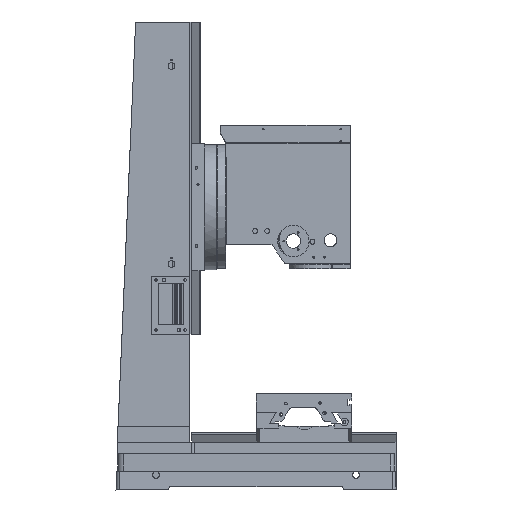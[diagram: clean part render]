
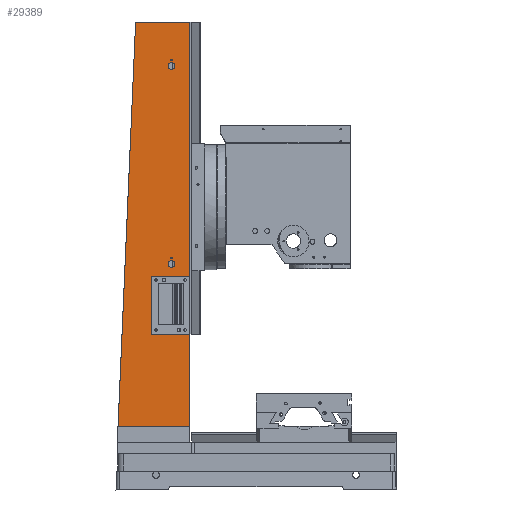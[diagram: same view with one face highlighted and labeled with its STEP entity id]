
A CAD part, left-side view. The second image highlights one B-rep face of the part: STEP entity #29389.
In plain terms, the highlighted free-form (B-spline) face has degree [3, 3] with [4, 4] control points.
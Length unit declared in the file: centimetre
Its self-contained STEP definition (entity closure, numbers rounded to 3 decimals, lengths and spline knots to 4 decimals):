
#320=B_SPLINE_CURVE_WITH_KNOTS('',3,(#50180,#50181,#50182,#50183),.UNSPECIFIED.,
.F.,.U.,(4,4),(0.,1.),.UNSPECIFIED.);
#321=B_SPLINE_CURVE_WITH_KNOTS('',3,(#50188,#50189,#50190,#50191),.UNSPECIFIED.,
.F.,.U.,(4,4),(0.,1.),.UNSPECIFIED.);
#857=B_SPLINE_SURFACE_WITH_KNOTS('',3,3,((#50161,#50162,#50163,#50164),(#50165,
#50166,#50167,#50168),(#50169,#50170,#50171,#50172),(#50173,#50174,#50175,
#50176)),.UNSPECIFIED.,.F.,.F.,.U.,(4,4),(4,4),(0.,1.),(0.,1.),.UNSPECIFIED.);
#2436=VECTOR('',#36003,1.);
#2437=VECTOR('',#36004,1.);
#2438=VECTOR('',#36005,1.);
#2439=VECTOR('',#36006,1.);
#2440=VECTOR('',#36007,1.);
#4517=LINE('',#50177,#2436);
#4518=LINE('',#50186,#2437);
#4519=LINE('',#50193,#2438);
#4520=LINE('',#50196,#2439);
#4521=LINE('',#50198,#2440);
#6348=CIRCLE('',#31320,0.21);
#6350=CIRCLE('',#31323,0.21);
#6386=CIRCLE('',#31411,0.85);
#6387=CIRCLE('',#31414,0.85);
#8411=VERTEX_POINT('',#43809);
#8413=VERTEX_POINT('',#43814);
#8613=VERTEX_POINT('',#50133);
#8615=VERTEX_POINT('',#50160);
#8616=VERTEX_POINT('',#50178);
#8617=VERTEX_POINT('',#50179);
#8618=VERTEX_POINT('',#50184);
#8619=VERTEX_POINT('',#50185);
#8620=VERTEX_POINT('',#50187);
#8621=VERTEX_POINT('',#50192);
#8622=VERTEX_POINT('',#50194);
#8623=VERTEX_POINT('',#50195);
#8624=VERTEX_POINT('',#50197);
#12099=EDGE_CURVE('',#8411,#8411,#6348,.T.);
#12101=EDGE_CURVE('',#8413,#8413,#6350,.T.);
#12369=EDGE_CURVE('',#8613,#8613,#6386,.T.);
#12372=EDGE_CURVE('',#8615,#8615,#6387,.T.);
#12374=EDGE_CURVE('',#8616,#8617,#4517,.T.);
#12375=EDGE_CURVE('',#8617,#8618,#320,.T.);
#12376=EDGE_CURVE('',#8618,#8619,#320,.T.);
#12377=EDGE_CURVE('',#8620,#8619,#4518,.T.);
#12378=EDGE_CURVE('',#8621,#8620,#321,.T.);
#12379=EDGE_CURVE('',#8622,#8621,#4519,.T.);
#12380=EDGE_CURVE('',#8622,#8623,#320,.T.);
#12381=EDGE_CURVE('',#8623,#8624,#4520,.T.);
#12382=EDGE_CURVE('',#8624,#8616,#4521,.T.);
#18491=ORIENTED_EDGE('',*,*,#12099,.T.);
#18492=ORIENTED_EDGE('',*,*,#12101,.T.);
#18493=ORIENTED_EDGE('',*,*,#12374,.T.);
#18494=ORIENTED_EDGE('',*,*,#12375,.T.);
#18495=ORIENTED_EDGE('',*,*,#12376,.T.);
#18496=ORIENTED_EDGE('',*,*,#12377,.F.);
#18497=ORIENTED_EDGE('',*,*,#12378,.F.);
#18498=ORIENTED_EDGE('',*,*,#12379,.F.);
#18499=ORIENTED_EDGE('',*,*,#12380,.T.);
#18500=ORIENTED_EDGE('',*,*,#12381,.T.);
#18501=ORIENTED_EDGE('',*,*,#12382,.T.);
#18502=ORIENTED_EDGE('',*,*,#12372,.T.);
#18503=ORIENTED_EDGE('',*,*,#12369,.T.);
#24918=EDGE_LOOP('',(#18491));
#24919=EDGE_LOOP('',(#18492));
#24920=EDGE_LOOP('',(#18493,#18494,#18495,#18496,#18497,#18498,#18499,#18500,
#18501));
#24921=EDGE_LOOP('',(#18502));
#24922=EDGE_LOOP('',(#18503));
#27227=FACE_BOUND('',#24918,.T.);
#27228=FACE_BOUND('',#24919,.T.);
#27229=FACE_BOUND('',#24920,.T.);
#27230=FACE_BOUND('',#24921,.T.);
#27231=FACE_BOUND('',#24922,.T.);
#29389=ADVANCED_FACE('',(#27227,#27228,#27229,#27230,#27231),#857,.T.);
#31320=AXIS2_PLACEMENT_3D('',#43808,#35734,#35735);
#31323=AXIS2_PLACEMENT_3D('',#43813,#35740,#35741);
#31411=AXIS2_PLACEMENT_3D('',#50132,#35995,#35996);
#31414=AXIS2_PLACEMENT_3D('',#50159,#36001,#36002);
#35734=DIRECTION('',(-1.,0.,0.));
#35735=DIRECTION('',(0.,0.,0.21));
#35740=DIRECTION('',(-1.,0.,0.));
#35741=DIRECTION('',(0.,0.,0.21));
#35995=DIRECTION('',(-1.,0.,0.));
#35996=DIRECTION('',(0.,0.,-0.85));
#36001=DIRECTION('',(-1.,0.,0.));
#36002=DIRECTION('',(0.,0.,-0.85));
#36003=DIRECTION('',(0.,1.,0.));
#36004=DIRECTION('',(0.,1.,0.));
#36005=DIRECTION('',(0.,-1.,0.));
#36006=DIRECTION('',(0.,-1.,0.));
#36007=DIRECTION('',(0.,0.,1.));
#43808=CARTESIAN_POINT('',(9.5,4.4,95.5));
#43809=CARTESIAN_POINT('',(9.5,4.4,95.71));
#43813=CARTESIAN_POINT('',(9.5,4.4,46.));
#43814=CARTESIAN_POINT('',(9.5,4.4,46.21));
#50132=CARTESIAN_POINT('',(9.5,4.4,44.5));
#50133=CARTESIAN_POINT('',(9.5,4.4,43.65));
#50159=CARTESIAN_POINT('',(9.5,4.4,94.));
#50160=CARTESIAN_POINT('',(9.5,4.4,93.15));
#50161=CARTESIAN_POINT('',(9.5,-9.,4.));
#50162=CARTESIAN_POINT('',(9.5,-7.5333,37.6667));
#50163=CARTESIAN_POINT('',(9.5,-6.0667,71.3333));
#50164=CARTESIAN_POINT('',(9.5,-4.6,105.));
#50165=CARTESIAN_POINT('',(9.5,-3.,4.));
#50166=CARTESIAN_POINT('',(9.5,-2.0222,37.6667));
#50167=CARTESIAN_POINT('',(9.5,-1.0444,71.3333));
#50168=CARTESIAN_POINT('',(9.5,-0.0667,105.));
#50169=CARTESIAN_POINT('',(9.5,3.,4.));
#50170=CARTESIAN_POINT('',(9.5,3.4889,37.6667));
#50171=CARTESIAN_POINT('',(9.5,3.9778,71.3333));
#50172=CARTESIAN_POINT('',(9.5,4.4667,105.));
#50173=CARTESIAN_POINT('',(9.5,9.,4.));
#50174=CARTESIAN_POINT('',(9.5,9.,37.6667));
#50175=CARTESIAN_POINT('',(9.5,9.,71.3333));
#50176=CARTESIAN_POINT('',(9.5,9.,105.));
#50177=CARTESIAN_POINT('',(9.5,4.2,41.5));
#50178=CARTESIAN_POINT('',(9.5,-0.6,41.5));
#50179=CARTESIAN_POINT('',(9.5,9.,41.5));
#50180=CARTESIAN_POINT('',(9.5,9.,4.));
#50181=CARTESIAN_POINT('',(9.5,9.,37.6667));
#50182=CARTESIAN_POINT('',(9.5,9.,71.3333));
#50183=CARTESIAN_POINT('',(9.5,9.,105.));
#50184=CARTESIAN_POINT('',(9.5,9.,103.5));
#50185=CARTESIAN_POINT('',(9.5,9.,105.));
#50186=CARTESIAN_POINT('',(9.5,-4.6,105.));
#50187=CARTESIAN_POINT('',(9.5,-4.6,105.));
#50188=CARTESIAN_POINT('',(9.5,-9.,4.));
#50189=CARTESIAN_POINT('',(9.5,-7.5333,37.6667));
#50190=CARTESIAN_POINT('',(9.5,-6.0667,71.3333));
#50191=CARTESIAN_POINT('',(9.5,-4.6,105.));
#50192=CARTESIAN_POINT('',(9.5,-9.,4.));
#50193=CARTESIAN_POINT('',(9.5,-9.,4.));
#50194=CARTESIAN_POINT('',(9.5,9.,4.));
#50195=CARTESIAN_POINT('',(9.5,9.,27.));
#50196=CARTESIAN_POINT('',(9.5,4.2,27.));
#50197=CARTESIAN_POINT('',(9.5,-0.6,27.));
#50198=CARTESIAN_POINT('',(9.5,-0.6,34.25));
